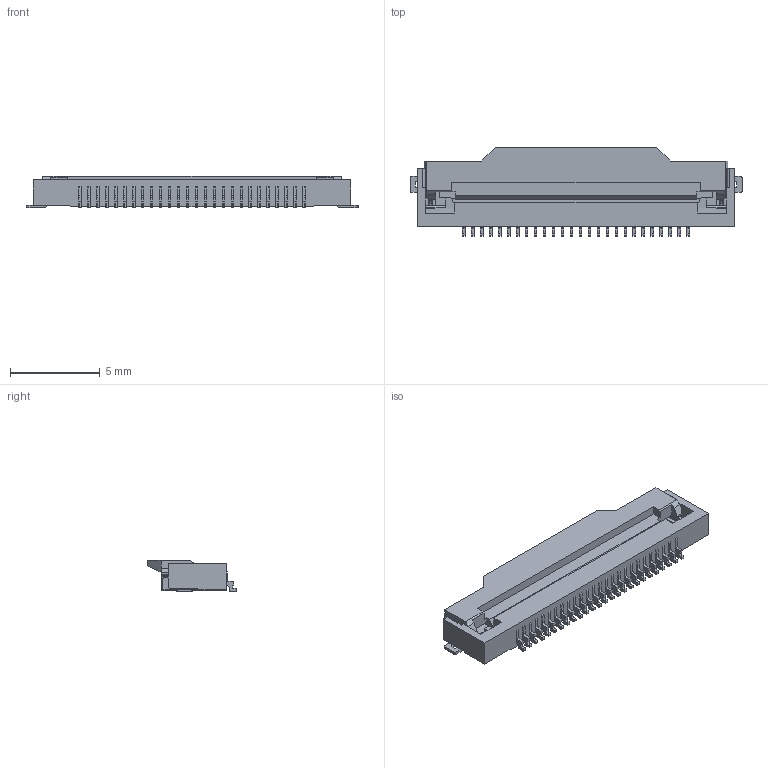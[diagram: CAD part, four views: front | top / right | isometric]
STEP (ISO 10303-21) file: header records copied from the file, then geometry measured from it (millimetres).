
FILE_DESCRIPTION (( 'STEP AP214' ), '1' );
FILE_NAME ('006806026108_607.STEP', '2023-05-19T06:31:27', ( '' ), ( '' ), 'SwSTEP 2.0', 'SolidWorks 2021', '' );
FILE_SCHEMA (( 'AUTOMOTIVE_DESIGN' ));
Length unit declared in the file: millimetre
Products named in the file (1): 006806026108_607
Bounding box: 18.5 x 4.95 x 1.75 mm (x, y, z)
Volume: 80 mm3; surface area: 362.6 mm2
Topology: 1 solids, 1 shells, 699 faces, 2019 edges, 1338 vertices
Faces by surface type: plane 466, cylinder 231, cone 2
Entity records: 22987 total; most frequent: CARTESIAN_POINT 4127, ORIENTED_EDGE 4038, DIRECTION 3861, EDGE_CURVE 2019, VECTOR 1541, LINE 1541, VERTEX_POINT 1338, AXIS2_PLACEMENT_3D 1160
